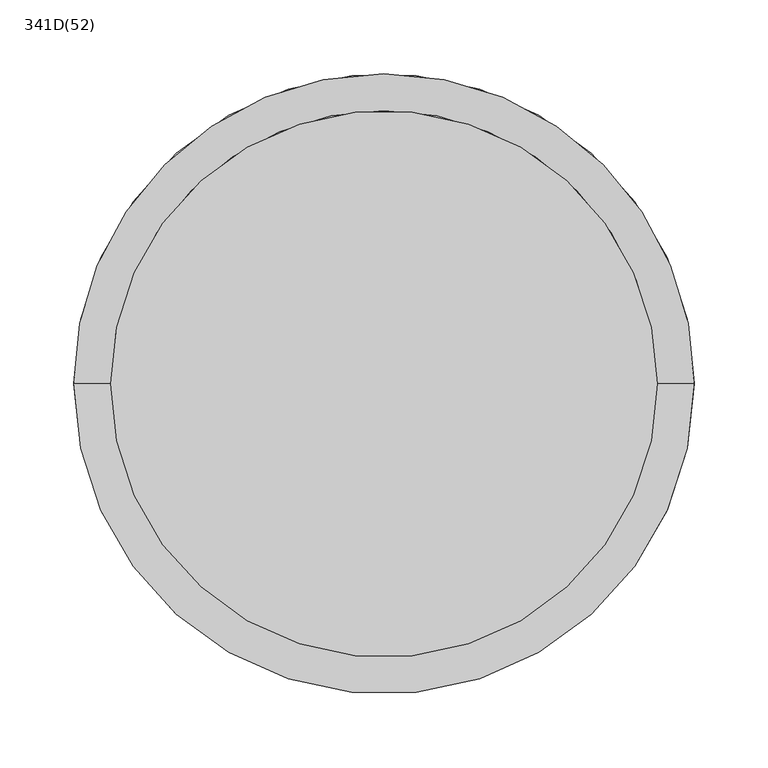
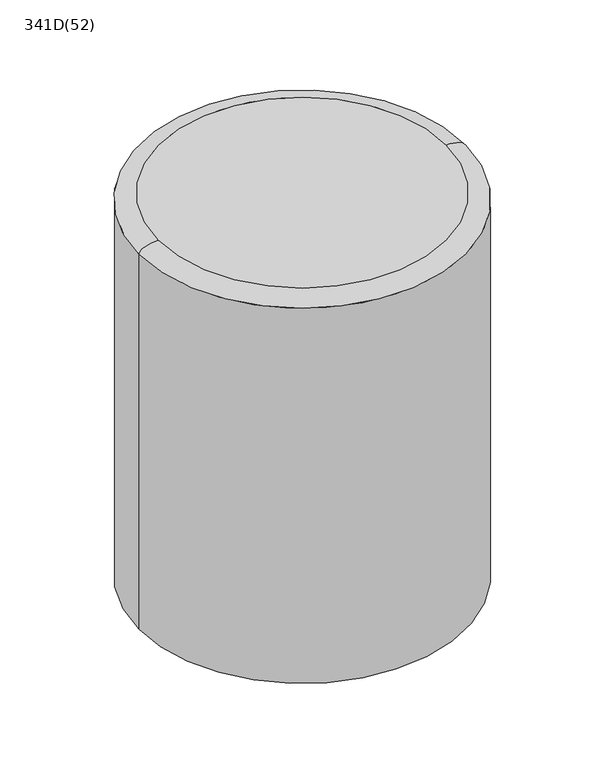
"""IFC4 building model written with IfcOpenShell, lengths in millimetres: furniture geometry, Bit Round : 341D(52)."""

from ifc_helpers import new_model, si_unit, point, frame, origin, origin_with_axes, origin_2d, place, context, project, spatial, circle_curve, ellipse_curve, trimmed, segment, composite_curve, outline, extrude, source, transform, mapped, element, save
from ifc_brep_helpers import plane_surface, revolved_surface, advanced_brep


def furniture_341d_52_e6a476b8(model_context):
    return source(origin(), model_context, "Body", "SolidModel", [
        advanced_brep(
        [(-185.0, 0.0, 520.0), (185.0, 0.0, 520.0), (-210.0, 0.0, 510.0), (210.0, 0.0, 510.0)],
        [
            (0, 1, circle_curve(frame((0.0, 0.0, 520.0), z_axis=(0.0, 0.0, 1.0), x_axis=(1.0, 0.0, 0.0)), 185.0)),
            (1, 0, circle_curve(frame((0.0, 0.0, 520.0), z_axis=(0.0, 0.0, 1.0), x_axis=(-1.0, 0.0, 0.0)), 185.0)),
            (2, 3, circle_curve(frame((0.0, 0.0, 510.0), z_axis=(0.0, 0.0, 1.0), x_axis=(1.0, 0.0, 0.0)), 210.0)),
            (3, 1, ellipse_curve(frame((185.0, 0.0, 510.0), z_axis=(0.0, -1.0, 0.0), x_axis=(1.0, 0.0, 0.0)), 25.0, 10.0)),
            (0, 2, ellipse_curve(frame((-185.0, 0.0, 510.0), z_axis=(0.0, -1.0, 0.0), x_axis=(-1.0, 0.0, 0.0)), 25.0, 10.0)),
            (3, 2, circle_curve(frame((0.0, 0.0, 510.0), z_axis=(0.0, 0.0, 1.0), x_axis=(-1.0, 0.0, 0.0)), 210.0)),
        ],
        [
            plane_surface(frame((185.0, 0.0, 520.0), z_axis=(0.0, 0.0, 1.0), x_axis=(0.0, 1.0, 0.0))),
            revolved_surface(trimmed(ellipse_curve(frame((185.0, 0.0, 510.0), z_axis=(0.0, 1.0, 0.0), x_axis=(1.0, 0.0, 0.0)), 25.0, 10.0), [point((185.0, 0.0, 520.0))], [point((210.0, 0.0, 510.0))], True, "CARTESIAN"), (0.0, 0.0, 520.0), (0.0, 0.0, -1.0)),
            revolved_surface(trimmed(ellipse_curve(frame((-185.0, 0.0, 510.0), z_axis=(0.0, -1.0, 0.0), x_axis=(-1.0, 0.0, 0.0)), 25.0, 10.0), [point((-185.0, 0.0, 520.0))], [point((-210.0, 0.0, 510.0))], True, "CARTESIAN"), (0.0, 0.0, 520.0), (0.0, 0.0, -1.0)),
            plane_surface(frame((0.0, 0.0, 510.0), z_axis=(0.0, 0.0, -1.0), x_axis=(-1.0, 0.0, 0.0))),
        ],
        [
            (0, [[1, 2]]),
            (1, [[3, 4, -1, 5]]),
            (2, [[-4, 6, -5, -2]]),
            (3, [[-3, -6]]),
        ],
    ),
        extrude(outline(composite_curve([segment(trimmed(circle_curve(origin_2d(), 210.0), [point((-210.0, 0.0))], [point((210.0, 0.0))], False, "CARTESIAN"), True, "CONTINUOUS"), segment(trimmed(circle_curve(origin_2d(), 210.0), [point((210.0, 0.0))], [point((-210.0, 0.0))], False, "CARTESIAN"), True, "CONTINUOUS")], self_intersect=False)), origin_with_axes(), (0.0, 0.0, 1.0), 510.0),
    ])


if __name__ == "__main__":
    model = new_model("IFC4")
    model_context = context("Model", 3, world=origin())
    ifc_project = project(units=[si_unit("LENGTHUNIT", "METRE", prefix="MILLI")], contexts=[model_context])
    site = spatial("IfcSite", under=ifc_project)
    building = spatial("IfcBuilding", under=site)
    placement = place(None, origin())
    furniture_341d_52_shape = furniture_341d_52_e6a476b8(model_context)
    element("IfcFurniture", 1, ObjectType="Bit Round : 341D(52)", at=placement, inside=building, context=model_context, shape_type="MappedRepresentation", body=[
        mapped(furniture_341d_52_shape, transform((0.0, 0.0, 0.0), x_axis=(1.0, 0.0, 0.0), y_axis=(0.0, 1.0, 0.0), z_axis=(0.0, 0.0, 1.0))),
    ])
    save(model, "model.ifc")
